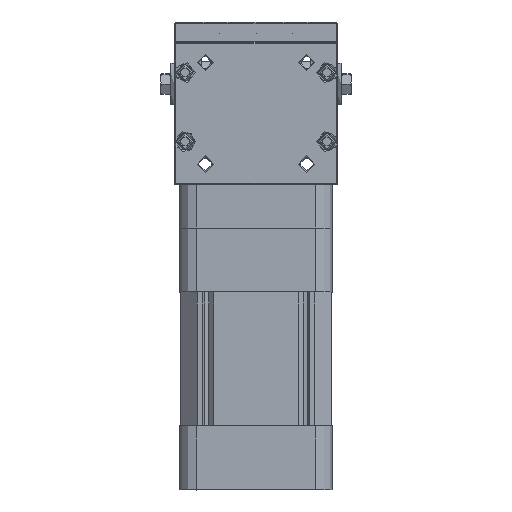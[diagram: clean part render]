
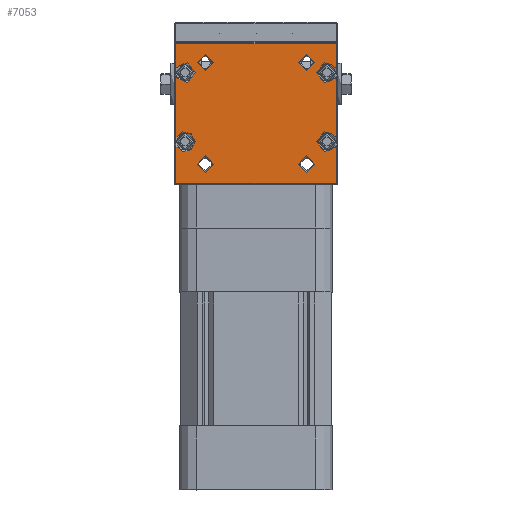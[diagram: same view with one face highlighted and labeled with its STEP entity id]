
A CAD part, top view. The second image highlights one B-rep face of the part: STEP entity #7053.
In plain terms, the highlighted planar face has unit normal (0, 0, 1).
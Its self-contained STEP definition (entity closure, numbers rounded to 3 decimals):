
#1357=FACE_BOUND('',#10382,.T.);
#1358=FACE_BOUND('',#10383,.T.);
#1359=FACE_BOUND('',#10384,.T.);
#1360=FACE_BOUND('',#10385,.T.);
#1361=FACE_BOUND('',#10386,.T.);
#2534=PLANE('',#30194);
#3551=LINE('',#70705,#5319);
#3552=LINE('',#70709,#5320);
#3553=LINE('',#70711,#5321);
#3554=LINE('',#70713,#5322);
#3555=LINE('',#70717,#5323);
#3556=LINE('',#70721,#5324);
#3557=LINE('',#70723,#5325);
#3558=LINE('',#70725,#5326);
#5319=VECTOR('',#34169,1.);
#5320=VECTOR('',#34172,1.);
#5321=VECTOR('',#34173,1.);
#5322=VECTOR('',#34174,1.);
#5323=VECTOR('',#34177,1.);
#5324=VECTOR('',#34180,1.);
#5325=VECTOR('',#34181,1.);
#5326=VECTOR('',#34182,1.);
#7053=ADVANCED_FACE('',(#1357,#1358,#1359,#1360,#1361),#2534,.F.);
#10382=EDGE_LOOP('',(#15032));
#10383=EDGE_LOOP('',(#15033));
#10384=EDGE_LOOP('',(#15034));
#10385=EDGE_LOOP('',(#15035));
#10386=EDGE_LOOP('',(#15036,#15037,#15038,#15039,#15040,#15041,#15042,#15043,
#15044,#15045,#15046,#15047));
#12333=CIRCLE('',#30186,4.);
#12334=CIRCLE('',#30187,4.);
#12335=CIRCLE('',#30188,4.);
#12336=CIRCLE('',#30189,4.);
#12337=CIRCLE('',#30190,5.);
#12338=CIRCLE('',#30191,5.);
#12339=CIRCLE('',#30192,5.);
#12340=CIRCLE('',#30193,5.);
#15032=ORIENTED_EDGE('',*,*,#25222,.T.);
#15033=ORIENTED_EDGE('',*,*,#25223,.T.);
#15034=ORIENTED_EDGE('',*,*,#25224,.T.);
#15035=ORIENTED_EDGE('',*,*,#25225,.T.);
#15036=ORIENTED_EDGE('',*,*,#25226,.T.);
#15037=ORIENTED_EDGE('',*,*,#25227,.T.);
#15038=ORIENTED_EDGE('',*,*,#25228,.T.);
#15039=ORIENTED_EDGE('',*,*,#25229,.T.);
#15040=ORIENTED_EDGE('',*,*,#25230,.T.);
#15041=ORIENTED_EDGE('',*,*,#25231,.T.);
#15042=ORIENTED_EDGE('',*,*,#25232,.T.);
#15043=ORIENTED_EDGE('',*,*,#25233,.T.);
#15044=ORIENTED_EDGE('',*,*,#25234,.T.);
#15045=ORIENTED_EDGE('',*,*,#25235,.T.);
#15046=ORIENTED_EDGE('',*,*,#25236,.T.);
#15047=ORIENTED_EDGE('',*,*,#25237,.T.);
#22025=VERTEX_POINT('',#70695);
#22026=VERTEX_POINT('',#70697);
#22027=VERTEX_POINT('',#70699);
#22028=VERTEX_POINT('',#70701);
#22029=VERTEX_POINT('',#70703);
#22030=VERTEX_POINT('',#70704);
#22031=VERTEX_POINT('',#70706);
#22032=VERTEX_POINT('',#70708);
#22033=VERTEX_POINT('',#70710);
#22034=VERTEX_POINT('',#70712);
#22035=VERTEX_POINT('',#70714);
#22036=VERTEX_POINT('',#70716);
#22037=VERTEX_POINT('',#70718);
#22038=VERTEX_POINT('',#70720);
#22039=VERTEX_POINT('',#70722);
#22040=VERTEX_POINT('',#70724);
#25222=EDGE_CURVE('',#22025,#22025,#12333,.T.);
#25223=EDGE_CURVE('',#22026,#22026,#12334,.T.);
#25224=EDGE_CURVE('',#22027,#22027,#12335,.T.);
#25225=EDGE_CURVE('',#22028,#22028,#12336,.T.);
#25226=EDGE_CURVE('',#22029,#22030,#12337,.T.);
#25227=EDGE_CURVE('',#22030,#22031,#3551,.T.);
#25228=EDGE_CURVE('',#22031,#22032,#12338,.T.);
#25229=EDGE_CURVE('',#22032,#22033,#3552,.T.);
#25230=EDGE_CURVE('',#22033,#22034,#3553,.T.);
#25231=EDGE_CURVE('',#22034,#22035,#3554,.T.);
#25232=EDGE_CURVE('',#22035,#22036,#12339,.T.);
#25233=EDGE_CURVE('',#22036,#22037,#3555,.T.);
#25234=EDGE_CURVE('',#22037,#22038,#12340,.T.);
#25235=EDGE_CURVE('',#22038,#22039,#3556,.T.);
#25236=EDGE_CURVE('',#22039,#22040,#3557,.T.);
#25237=EDGE_CURVE('',#22040,#22029,#3558,.T.);
#30186=AXIS2_PLACEMENT_3D('',#70694,#34159,#34160);
#30187=AXIS2_PLACEMENT_3D('',#70696,#34161,#34162);
#30188=AXIS2_PLACEMENT_3D('',#70698,#34163,#34164);
#30189=AXIS2_PLACEMENT_3D('',#70700,#34165,#34166);
#30190=AXIS2_PLACEMENT_3D('',#70702,#34167,#34168);
#30191=AXIS2_PLACEMENT_3D('',#70707,#34170,#34171);
#30192=AXIS2_PLACEMENT_3D('',#70715,#34175,#34176);
#30193=AXIS2_PLACEMENT_3D('',#70719,#34178,#34179);
#30194=AXIS2_PLACEMENT_3D('',#70726,#34183,#34184);
#34159=DIRECTION('',(0.,0.,-1.));
#34160=DIRECTION('',(-1.,0.,0.));
#34161=DIRECTION('',(0.,0.,-1.));
#34162=DIRECTION('',(-1.,0.,0.));
#34163=DIRECTION('',(0.,0.,-1.));
#34164=DIRECTION('',(-1.,0.,0.));
#34165=DIRECTION('',(0.,0.,-1.));
#34166=DIRECTION('',(-1.,0.,0.));
#34167=DIRECTION('',(0.,0.,-1.));
#34168=DIRECTION('',(-1.,0.,0.));
#34169=DIRECTION('',(0.,1.,0.));
#34170=DIRECTION('',(0.,0.,-1.));
#34171=DIRECTION('',(-1.,0.,0.));
#34172=DIRECTION('',(0.,1.,0.));
#34173=DIRECTION('',(-1.,0.,0.));
#34174=DIRECTION('',(0.,-1.,0.));
#34175=DIRECTION('',(0.,0.,-1.));
#34176=DIRECTION('',(-1.,0.,0.));
#34177=DIRECTION('',(0.,-1.,0.));
#34178=DIRECTION('',(0.,0.,-1.));
#34179=DIRECTION('',(-1.,0.,0.));
#34180=DIRECTION('',(0.,-1.,0.));
#34181=DIRECTION('',(1.,0.,0.));
#34182=DIRECTION('',(0.,1.,0.));
#34183=DIRECTION('',(0.,0.,-1.));
#34184=DIRECTION('',(-1.,0.,0.));
#70694=CARTESIAN_POINT('',(-224.999,160.511,53.001));
#70695=CARTESIAN_POINT('',(-228.999,160.511,53.001));
#70696=CARTESIAN_POINT('',(-224.999,210.511,53.001));
#70697=CARTESIAN_POINT('',(-228.999,210.511,53.001));
#70698=CARTESIAN_POINT('',(-174.999,160.511,53.001));
#70699=CARTESIAN_POINT('',(-178.999,160.511,53.001));
#70700=CARTESIAN_POINT('',(-174.999,210.511,53.001));
#70701=CARTESIAN_POINT('',(-178.999,210.511,53.001));
#70702=CARTESIAN_POINT('',(-164.999,171.509,53.001));
#70703=CARTESIAN_POINT('',(-160.499,169.329,53.001));
#70704=CARTESIAN_POINT('',(-160.499,173.688,53.001));
#70705=CARTESIAN_POINT('',(-160.499,140.511,53.001));
#70706=CARTESIAN_POINT('',(-160.499,203.329,53.001));
#70707=CARTESIAN_POINT('',(-164.999,205.509,53.001));
#70708=CARTESIAN_POINT('',(-160.499,207.688,53.001));
#70709=CARTESIAN_POINT('',(-160.499,140.511,53.001));
#70710=CARTESIAN_POINT('',(-160.499,220.011,53.001));
#70711=CARTESIAN_POINT('',(-159.999,220.011,53.001));
#70712=CARTESIAN_POINT('',(-239.499,220.011,53.001));
#70713=CARTESIAN_POINT('',(-239.499,140.511,53.001));
#70714=CARTESIAN_POINT('',(-239.499,207.69,53.001));
#70715=CARTESIAN_POINT('',(-234.999,205.511,53.001));
#70716=CARTESIAN_POINT('',(-239.499,203.331,53.001));
#70717=CARTESIAN_POINT('',(-239.499,140.511,53.001));
#70718=CARTESIAN_POINT('',(-239.499,173.69,53.001));
#70719=CARTESIAN_POINT('',(-234.999,171.511,53.001));
#70720=CARTESIAN_POINT('',(-239.499,169.331,53.001));
#70721=CARTESIAN_POINT('',(-239.499,140.511,53.001));
#70722=CARTESIAN_POINT('',(-239.499,151.011,53.001));
#70723=CARTESIAN_POINT('',(-159.999,151.011,53.001));
#70724=CARTESIAN_POINT('',(-160.499,151.011,53.001));
#70725=CARTESIAN_POINT('',(-160.499,140.511,53.001));
#70726=CARTESIAN_POINT('',(-159.999,140.511,53.001));
